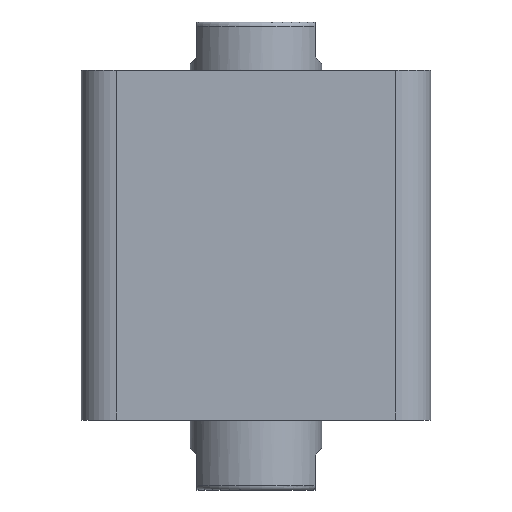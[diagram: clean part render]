
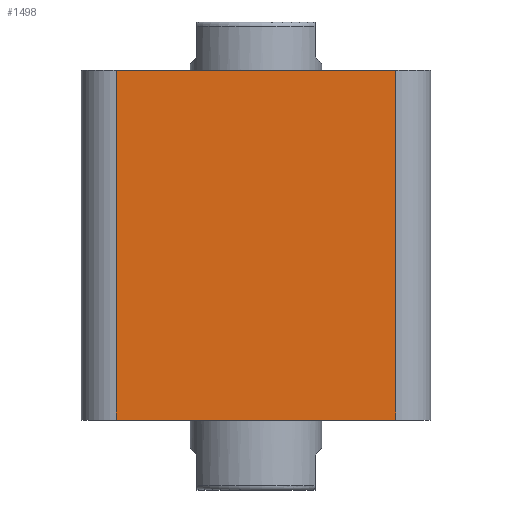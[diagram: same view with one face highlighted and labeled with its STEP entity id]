
A CAD part, front view. The second image highlights one B-rep face of the part: STEP entity #1498.
In plain terms, the highlighted planar face has unit normal (0, -1, 0).
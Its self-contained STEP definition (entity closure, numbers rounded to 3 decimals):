
#37 = CARTESIAN_POINT ( 'NONE',  ( -40., -40., 80. ) ) ;
#39 = PLANE ( 'NONE',  #2108 ) ;
#42 = DIRECTION ( 'NONE',  ( 0., 1., 0. ) ) ;
#43 = DIRECTION ( 'NONE',  ( 0., 0., 1. ) ) ;
#270 = ORIENTED_EDGE ( 'NONE', *, *, #2040, .F. ) ;
#271 = ORIENTED_EDGE ( 'NONE', *, *, #2041, .T. ) ;
#272 = ORIENTED_EDGE ( 'NONE', *, *, #2042, .T. ) ;
#273 = ORIENTED_EDGE ( 'NONE', *, *, #2043, .T. ) ;
#409 = VERTEX_POINT ( 'NONE', #677 ) ;
#437 = VERTEX_POINT ( 'NONE', #1578 ) ;
#438 = VERTEX_POINT ( 'NONE', #1631 ) ;
#443 = VERTEX_POINT ( 'NONE', #1590 ) ;
#652 = EDGE_LOOP ( 'NONE', ( #270, #271, #272, #273 ) ) ;
#677 = CARTESIAN_POINT ( 'NONE',  ( 32., -40., 0. ) ) ;
#878 = CARTESIAN_POINT ( 'NONE',  ( -40., -40., 0. ) ) ;
#888 = CARTESIAN_POINT ( 'NONE',  ( -40., -40., 80. ) ) ;
#889 = DIRECTION ( 'NONE',  ( 1., 0., 0. ) ) ;
#890 = CARTESIAN_POINT ( 'NONE',  ( -32., -40., 80. ) ) ;
#891 = DIRECTION ( 'NONE',  ( 0., 0., -1. ) ) ;
#892 = DIRECTION ( 'NONE',  ( 1., 0., 0. ) ) ;
#893 = CARTESIAN_POINT ( 'NONE',  ( 32., -40., 80. ) ) ;
#894 = DIRECTION ( 'NONE',  ( 0., 0., 1. ) ) ;
#1274 = LINE ( 'NONE', #878, #1287 ) ;
#1280 = LINE ( 'NONE', #888, #1283 ) ;
#1282 = LINE ( 'NONE', #890, #1285 ) ;
#1283 = VECTOR ( 'NONE', #889, 1000. ) ;
#1285 = VECTOR ( 'NONE', #891, 1000. ) ;
#1286 = LINE ( 'NONE', #893, #1289 ) ;
#1287 = VECTOR ( 'NONE', #892, 1000. ) ;
#1289 = VECTOR ( 'NONE', #894, 1000. ) ;
#1498 = ADVANCED_FACE ( 'NONE', ( #2681 ), #39, .F. ) ;
#1578 = CARTESIAN_POINT ( 'NONE',  ( -32., -40., 0. ) ) ;
#1590 = CARTESIAN_POINT ( 'NONE',  ( -32., -40., 80. ) ) ;
#1631 = CARTESIAN_POINT ( 'NONE',  ( 32., -40., 80. ) ) ;
#2040 = EDGE_CURVE ( 'NONE', #443, #438, #1280, .T. ) ;
#2041 = EDGE_CURVE ( 'NONE', #443, #437, #1282, .T. ) ;
#2042 = EDGE_CURVE ( 'NONE', #437, #409, #1274, .T. ) ;
#2043 = EDGE_CURVE ( 'NONE', #409, #438, #1286, .T. ) ;
#2108 = AXIS2_PLACEMENT_3D ( 'NONE', #37, #42, #43 ) ;
#2681 = FACE_OUTER_BOUND ( 'NONE', #652, .T. ) ;
